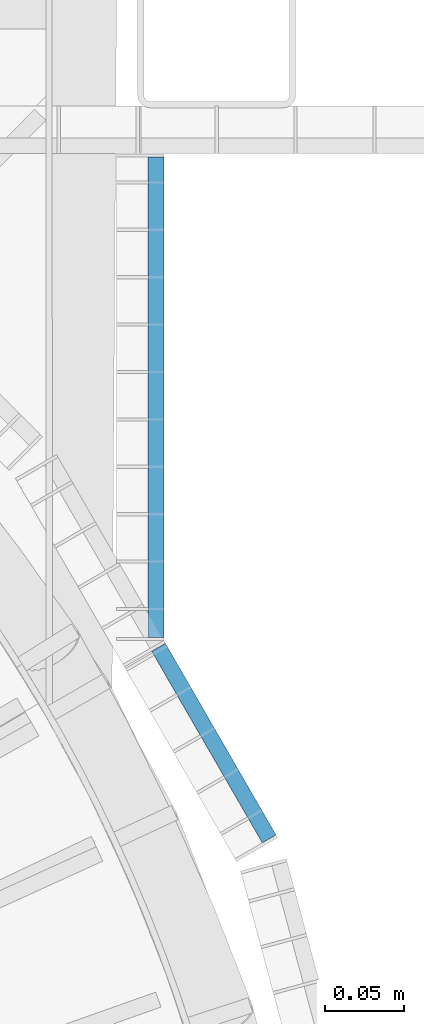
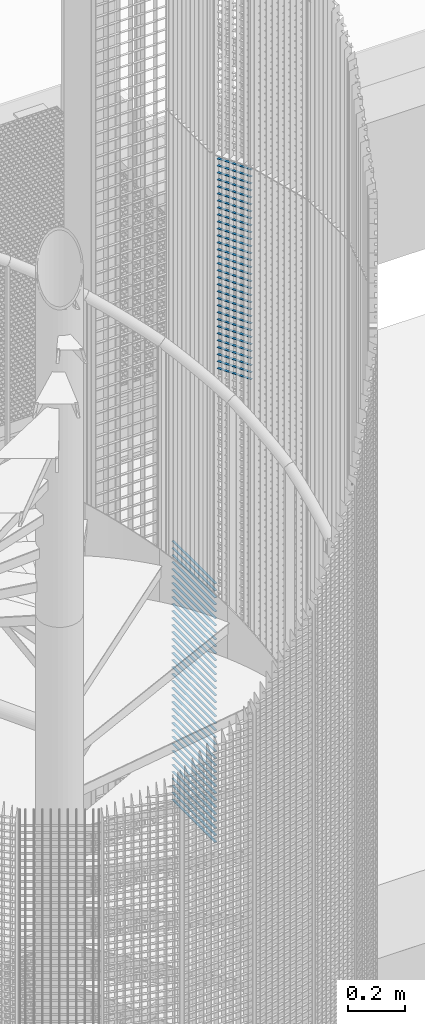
# One storey, part 268 of 1148: 69 beams, 2 elements without a shape of their own.
"""IFC2X3 building model written with IfcOpenShell, lengths in millimetres."""

from ifc_helpers import new_model, si_unit, frame, origin_with_axes, origin_2d_with_axis, place, context, subcontext, project, spatial, rectangle, extrude, material, type_object, element, aggregate, save


model = new_model("IFC2X3")

# Units and contexts
model_context = context("Model", 3, precision=1e-05, world=origin_with_axes())
body_context = subcontext(model_context, "Body", "Model", "MODEL_VIEW")
ifc_project = project(units=[si_unit("LENGTHUNIT", "METRE", prefix="MILLI"), si_unit("AREAUNIT", "SQUARE_METRE"), si_unit("VOLUMEUNIT", "CUBIC_METRE"), si_unit("MASSUNIT", "GRAM", prefix="KILO"), si_unit("TIMEUNIT", "SECOND"), si_unit("PLANEANGLEUNIT", "RADIAN"), si_unit("SOLIDANGLEUNIT", "STERADIAN"), si_unit("THERMODYNAMICTEMPERATUREUNIT", "DEGREE_CELSIUS"), si_unit("LUMINOUSINTENSITYUNIT", "LUMEN")], contexts=[model_context])

# Site, building, storey
site_placement = place(None, origin_with_axes())
site = spatial("IfcSite", under=ifc_project, at=site_placement, Name="Undefined", CompositionType="ELEMENT")
building_placement = place(site_placement, origin_with_axes())
building = spatial("IfcBuilding", under=site, at=building_placement, Name="Undefined", CompositionType="ELEMENT")
storey_placement = place(building_placement, origin_with_axes())
storey = spatial("IfcBuildingStorey", under=building, at=storey_placement, Name="Undefined", CompositionType="ELEMENT", Elevation=0.0)

# Assembly, beams
assembly_1_placement = place(storey_placement, origin_with_axes())
assembly_1 = element("IfcElementAssembly", 1, at=assembly_1_placement, inside=storey, Name="BORDURE", AssemblyPlace="NOTDEFINED", PredefinedType="NOTDEFINED")
ifc_material = material(Name="STEEL/S235JR")
beam_type = type_object("IfcBeamType", Name="PL2*10", PredefinedType="NOTDEFINED")
beam_1_placement = place(assembly_1_placement, frame((961.586915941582, 564.782669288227, 13140.0), z_axis=(1.0, 0.0, 0.0), x_axis=(0.0, 1.0, 0.0)))
beam_1 = element("IfcBeam", 2, at=beam_1_placement, type_object=beam_type, material=ifc_material, Name="ENTRETOISE", context=body_context, shape_type="SweptSolid", body=[
    extrude(rectangle(XDim=2.0, YDim=10.0, at=origin_2d_with_axis()), frame((303.999999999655, 0.0, 0.0), z_axis=(-1.0, 0.0, 0.0), x_axis=(0.0, -1.0, 0.0)), (0.0, 0.0, 1.0), 304.0),
])
beam_2_placement = place(assembly_1_placement, frame((961.586915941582, 564.782669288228, 12720.0), z_axis=(1.0, 0.0, 0.0), x_axis=(0.0, 1.0, 0.0)))
beam_2 = element("IfcBeam", 3, at=beam_2_placement, type_object=beam_type, material=ifc_material, Name="ENTRETOISE", context=body_context, shape_type="SweptSolid", body=[
    extrude(rectangle(XDim=2.0, YDim=10.0, at=origin_2d_with_axis()), frame((303.999999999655, 0.0, 0.0), z_axis=(-1.0, 0.0, 0.0), x_axis=(0.0, -1.0, 0.0)), (0.0, 0.0, 1.0), 304.0),
])
beam_3_placement = place(assembly_1_placement, frame((961.586915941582, 564.782669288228, 12690.0), z_axis=(1.0, 0.0, 0.0), x_axis=(0.0, 1.0, 0.0)))
beam_3 = element("IfcBeam", 4, at=beam_3_placement, type_object=beam_type, material=ifc_material, Name="ENTRETOISE", context=body_context, shape_type="SweptSolid", body=[
    extrude(rectangle(XDim=2.0, YDim=10.0, at=origin_2d_with_axis()), frame((303.999999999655, 0.0, 0.0), z_axis=(-1.0, 0.0, 0.0), x_axis=(0.0, -1.0, 0.0)), (0.0, 0.0, 1.0), 304.0),
])
beam_4_placement = place(assembly_1_placement, frame((961.586915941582, 564.782669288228, 12750.0), z_axis=(1.0, 0.0, 0.0), x_axis=(0.0, 1.0, 0.0)))
beam_4 = element("IfcBeam", 5, at=beam_4_placement, type_object=beam_type, material=ifc_material, Name="ENTRETOISE", context=body_context, shape_type="SweptSolid", body=[
    extrude(rectangle(XDim=2.0, YDim=10.0, at=origin_2d_with_axis()), frame((303.999999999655, 0.0, 0.0), z_axis=(-1.0, 0.0, 0.0), x_axis=(0.0, -1.0, 0.0)), (0.0, 0.0, 1.0), 304.0),
])
beam_5_placement = place(assembly_1_placement, frame((961.586915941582, 564.782669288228, 12660.0), z_axis=(1.0, 0.0, 0.0), x_axis=(0.0, 1.0, 0.0)))
beam_5 = element("IfcBeam", 6, at=beam_5_placement, type_object=beam_type, material=ifc_material, Name="ENTRETOISE", context=body_context, shape_type="SweptSolid", body=[
    extrude(rectangle(XDim=2.0, YDim=10.0, at=origin_2d_with_axis()), frame((303.999999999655, 0.0, 0.0), z_axis=(-1.0, 0.0, 0.0), x_axis=(0.0, -1.0, 0.0)), (0.0, 0.0, 1.0), 304.0),
])
beam_6_placement = place(assembly_1_placement, frame((961.586915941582, 564.782669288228, 12630.0), z_axis=(1.0, 0.0, 0.0), x_axis=(0.0, 1.0, 0.0)))
beam_6 = element("IfcBeam", 7, at=beam_6_placement, type_object=beam_type, material=ifc_material, Name="ENTRETOISE", context=body_context, shape_type="SweptSolid", body=[
    extrude(rectangle(XDim=2.0, YDim=10.0, at=origin_2d_with_axis()), frame((303.999999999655, 0.0, 0.0), z_axis=(-1.0, 0.0, 0.0), x_axis=(0.0, -1.0, 0.0)), (0.0, 0.0, 1.0), 304.0),
])
beam_7_placement = place(assembly_1_placement, frame((961.586915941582, 564.782669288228, 12780.0), z_axis=(1.0, 0.0, 0.0), x_axis=(0.0, 1.0, 0.0)))
beam_7 = element("IfcBeam", 8, at=beam_7_placement, type_object=beam_type, material=ifc_material, Name="ENTRETOISE", context=body_context, shape_type="SweptSolid", body=[
    extrude(rectangle(XDim=2.0, YDim=10.0, at=origin_2d_with_axis()), frame((303.999999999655, 0.0, 0.0), z_axis=(-1.0, 0.0, 0.0), x_axis=(0.0, -1.0, 0.0)), (0.0, 0.0, 1.0), 304.0),
])
beam_8_placement = place(assembly_1_placement, frame((961.586915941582, 564.782669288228, 12600.0), z_axis=(1.0, 0.0, 0.0), x_axis=(0.0, 1.0, 0.0)))
beam_8 = element("IfcBeam", 9, at=beam_8_placement, type_object=beam_type, material=ifc_material, Name="ENTRETOISE", context=body_context, shape_type="SweptSolid", body=[
    extrude(rectangle(XDim=2.0, YDim=10.0, at=origin_2d_with_axis()), frame((303.999999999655, 0.0, 0.0), z_axis=(-1.0, 0.0, 0.0), x_axis=(0.0, -1.0, 0.0)), (0.0, 0.0, 1.0), 304.0),
])
beam_9_placement = place(assembly_1_placement, frame((961.586915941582, 564.782669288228, 12810.0), z_axis=(1.0, 0.0, 0.0), x_axis=(0.0, 1.0, 0.0)))
beam_9 = element("IfcBeam", 10, at=beam_9_placement, type_object=beam_type, material=ifc_material, Name="ENTRETOISE", context=body_context, shape_type="SweptSolid", body=[
    extrude(rectangle(XDim=2.0, YDim=10.0, at=origin_2d_with_axis()), frame((303.999999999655, 0.0, 0.0), z_axis=(-1.0, 0.0, 0.0), x_axis=(0.0, -1.0, 0.0)), (0.0, 0.0, 1.0), 304.0),
])
beam_10_placement = place(assembly_1_placement, frame((961.586915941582, 564.782669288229, 12570.0), z_axis=(1.0, 0.0, 0.0), x_axis=(0.0, 1.0, 0.0)))
beam_10 = element("IfcBeam", 11, at=beam_10_placement, type_object=beam_type, material=ifc_material, Name="ENTRETOISE", context=body_context, shape_type="SweptSolid", body=[
    extrude(rectangle(XDim=2.0, YDim=10.0, at=origin_2d_with_axis()), frame((303.999999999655, 0.0, 0.0), z_axis=(-1.0, 0.0, 0.0), x_axis=(0.0, -1.0, 0.0)), (0.0, 0.0, 1.0), 304.0),
])
beam_11_placement = place(assembly_1_placement, frame((961.586915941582, 564.782669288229, 12540.0), z_axis=(1.0, 0.0, 0.0), x_axis=(0.0, 1.0, 0.0)))
beam_11 = element("IfcBeam", 12, at=beam_11_placement, type_object=beam_type, material=ifc_material, Name="ENTRETOISE", context=body_context, shape_type="SweptSolid", body=[
    extrude(rectangle(XDim=2.0, YDim=10.0, at=origin_2d_with_axis()), frame((303.999999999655, 0.0, 0.0), z_axis=(-1.0, 0.0, 0.0), x_axis=(0.0, -1.0, 0.0)), (0.0, 0.0, 1.0), 304.0),
])
beam_12_placement = place(assembly_1_placement, frame((961.586915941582, 564.782669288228, 12840.0), z_axis=(1.0, 0.0, 0.0), x_axis=(0.0, 1.0, 0.0)))
beam_12 = element("IfcBeam", 13, at=beam_12_placement, type_object=beam_type, material=ifc_material, Name="ENTRETOISE", context=body_context, shape_type="SweptSolid", body=[
    extrude(rectangle(XDim=2.0, YDim=10.0, at=origin_2d_with_axis()), frame((303.999999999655, 0.0, 0.0), z_axis=(-1.0, 0.0, 0.0), x_axis=(0.0, -1.0, 0.0)), (0.0, 0.0, 1.0), 304.0),
])
beam_13_placement = place(assembly_1_placement, frame((961.586915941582, 564.782669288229, 12510.0), z_axis=(1.0, 0.0, 0.0), x_axis=(0.0, 1.0, 0.0)))
beam_13 = element("IfcBeam", 14, at=beam_13_placement, type_object=beam_type, material=ifc_material, Name="ENTRETOISE", context=body_context, shape_type="SweptSolid", body=[
    extrude(rectangle(XDim=2.0, YDim=10.0, at=origin_2d_with_axis()), frame((303.999999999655, 0.0, 0.0), z_axis=(-1.0, 0.0, 0.0), x_axis=(0.0, -1.0, 0.0)), (0.0, 0.0, 1.0), 304.0),
])
beam_14_placement = place(assembly_1_placement, frame((961.586915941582, 564.782669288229, 12480.0), z_axis=(1.0, 0.0, 0.0), x_axis=(0.0, 1.0, 0.0)))
beam_14 = element("IfcBeam", 15, at=beam_14_placement, type_object=beam_type, material=ifc_material, Name="ENTRETOISE", context=body_context, shape_type="SweptSolid", body=[
    extrude(rectangle(XDim=2.0, YDim=10.0, at=origin_2d_with_axis()), frame((303.999999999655, 0.0, 0.0), z_axis=(-1.0, 0.0, 0.0), x_axis=(0.0, -1.0, 0.0)), (0.0, 0.0, 1.0), 304.0),
])
beam_15_placement = place(assembly_1_placement, frame((961.586915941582, 564.782669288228, 12870.0), z_axis=(1.0, 0.0, 0.0), x_axis=(0.0, 1.0, 0.0)))
beam_15 = element("IfcBeam", 16, at=beam_15_placement, type_object=beam_type, material=ifc_material, Name="ENTRETOISE", context=body_context, shape_type="SweptSolid", body=[
    extrude(rectangle(XDim=2.0, YDim=10.0, at=origin_2d_with_axis()), frame((303.999999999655, 0.0, 0.0), z_axis=(-1.0, 0.0, 0.0), x_axis=(0.0, -1.0, 0.0)), (0.0, 0.0, 1.0), 304.0),
])
beam_16_placement = place(assembly_1_placement, frame((961.586915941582, 564.782669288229, 12450.0), z_axis=(1.0, 0.0, 0.0), x_axis=(0.0, 1.0, 0.0)))
beam_16 = element("IfcBeam", 17, at=beam_16_placement, type_object=beam_type, material=ifc_material, Name="ENTRETOISE", context=body_context, shape_type="SweptSolid", body=[
    extrude(rectangle(XDim=2.0, YDim=10.0, at=origin_2d_with_axis()), frame((303.999999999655, 0.0, 0.0), z_axis=(-1.0, 0.0, 0.0), x_axis=(0.0, -1.0, 0.0)), (0.0, 0.0, 1.0), 304.0),
])
beam_17_placement = place(assembly_1_placement, frame((961.586915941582, 564.782669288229, 12420.0), z_axis=(1.0, 0.0, 0.0), x_axis=(0.0, 1.0, 0.0)))
beam_17 = element("IfcBeam", 18, at=beam_17_placement, type_object=beam_type, material=ifc_material, Name="ENTRETOISE", context=body_context, shape_type="SweptSolid", body=[
    extrude(rectangle(XDim=2.0, YDim=10.0, at=origin_2d_with_axis()), frame((303.999999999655, 0.0, 0.0), z_axis=(-1.0, 0.0, 0.0), x_axis=(0.0, -1.0, 0.0)), (0.0, 0.0, 1.0), 304.0),
])
beam_18_placement = place(assembly_1_placement, frame((961.586915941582, 564.782669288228, 12900.0), z_axis=(1.0, 0.0, 0.0), x_axis=(0.0, 1.0, 0.0)))
beam_18 = element("IfcBeam", 19, at=beam_18_placement, type_object=beam_type, material=ifc_material, Name="ENTRETOISE", context=body_context, shape_type="SweptSolid", body=[
    extrude(rectangle(XDim=2.0, YDim=10.0, at=origin_2d_with_axis()), frame((303.999999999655, 0.0, 0.0), z_axis=(-1.0, 0.0, 0.0), x_axis=(0.0, -1.0, 0.0)), (0.0, 0.0, 1.0), 304.0),
])
beam_19_placement = place(assembly_1_placement, frame((961.586915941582, 564.782669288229, 12390.0), z_axis=(1.0, 0.0, 0.0), x_axis=(0.0, 1.0, 0.0)))
beam_19 = element("IfcBeam", 20, at=beam_19_placement, type_object=beam_type, material=ifc_material, Name="ENTRETOISE", context=body_context, shape_type="SweptSolid", body=[
    extrude(rectangle(XDim=2.0, YDim=10.0, at=origin_2d_with_axis()), frame((303.999999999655, 0.0, 0.0), z_axis=(-1.0, 0.0, 0.0), x_axis=(0.0, -1.0, 0.0)), (0.0, 0.0, 1.0), 304.0),
])
beam_20_placement = place(assembly_1_placement, frame((961.586915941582, 564.782669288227, 12930.0), z_axis=(1.0, 0.0, 0.0), x_axis=(0.0, 1.0, 0.0)))
beam_20 = element("IfcBeam", 21, at=beam_20_placement, type_object=beam_type, material=ifc_material, Name="ENTRETOISE", context=body_context, shape_type="SweptSolid", body=[
    extrude(rectangle(XDim=2.0, YDim=10.0, at=origin_2d_with_axis()), frame((303.999999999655, 0.0, 0.0), z_axis=(-1.0, 0.0, 0.0), x_axis=(0.0, -1.0, 0.0)), (0.0, 0.0, 1.0), 304.0),
])
beam_21_placement = place(assembly_1_placement, frame((961.586915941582, 564.782669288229, 12360.0), z_axis=(1.0, 0.0, 0.0), x_axis=(0.0, 1.0, 0.0)))
beam_21 = element("IfcBeam", 22, at=beam_21_placement, type_object=beam_type, material=ifc_material, Name="ENTRETOISE", context=body_context, shape_type="SweptSolid", body=[
    extrude(rectangle(XDim=2.0, YDim=10.0, at=origin_2d_with_axis()), frame((303.999999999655, 0.0, 0.0), z_axis=(-1.0, 0.0, 0.0), x_axis=(0.0, -1.0, 0.0)), (0.0, 0.0, 1.0), 304.0),
])
beam_22_placement = place(assembly_1_placement, frame((961.586915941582, 564.782669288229, 12330.0), z_axis=(1.0, 0.0, 0.0), x_axis=(0.0, 1.0, 0.0)))
beam_22 = element("IfcBeam", 23, at=beam_22_placement, type_object=beam_type, material=ifc_material, Name="ENTRETOISE", context=body_context, shape_type="SweptSolid", body=[
    extrude(rectangle(XDim=2.0, YDim=10.0, at=origin_2d_with_axis()), frame((303.999999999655, 0.0, 0.0), z_axis=(-1.0, 0.0, 0.0), x_axis=(0.0, -1.0, 0.0)), (0.0, 0.0, 1.0), 304.0),
])
beam_23_placement = place(assembly_1_placement, frame((961.586915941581, 564.782669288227, 12960.0), z_axis=(1.0, 0.0, 0.0), x_axis=(0.0, 1.0, 0.0)))
beam_23 = element("IfcBeam", 24, at=beam_23_placement, type_object=beam_type, material=ifc_material, Name="ENTRETOISE", context=body_context, shape_type="SweptSolid", body=[
    extrude(rectangle(XDim=2.0, YDim=10.0, at=origin_2d_with_axis()), frame((303.999999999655, 0.0, 0.0), z_axis=(-1.0, 0.0, 0.0), x_axis=(0.0, -1.0, 0.0)), (0.0, 0.0, 1.0), 304.0),
])
beam_24_placement = place(assembly_1_placement, frame((961.586915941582, 564.782669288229, 12300.0), z_axis=(1.0, 0.0, 0.0), x_axis=(0.0, 1.0, 0.0)))
beam_24 = element("IfcBeam", 25, at=beam_24_placement, type_object=beam_type, material=ifc_material, Name="ENTRETOISE", context=body_context, shape_type="SweptSolid", body=[
    extrude(rectangle(XDim=2.0, YDim=10.0, at=origin_2d_with_axis()), frame((303.999999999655, 0.0, 0.0), z_axis=(-1.0, 0.0, 0.0), x_axis=(0.0, -1.0, 0.0)), (0.0, 0.0, 1.0), 304.0),
])
beam_25_placement = place(assembly_1_placement, frame((961.586915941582, 564.78266928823, 12270.0), z_axis=(1.0, 0.0, 0.0), x_axis=(0.0, 1.0, 0.0)))
beam_25 = element("IfcBeam", 26, at=beam_25_placement, type_object=beam_type, material=ifc_material, Name="ENTRETOISE", context=body_context, shape_type="SweptSolid", body=[
    extrude(rectangle(XDim=2.0, YDim=10.0, at=origin_2d_with_axis()), frame((303.999999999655, 0.0, 0.0), z_axis=(-1.0, 0.0, 0.0), x_axis=(0.0, -1.0, 0.0)), (0.0, 0.0, 1.0), 304.0),
])
beam_26_placement = place(assembly_1_placement, frame((961.586915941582, 564.782669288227, 12990.0), z_axis=(1.0, 0.0, 0.0), x_axis=(0.0, 1.0, 0.0)))
beam_26 = element("IfcBeam", 27, at=beam_26_placement, type_object=beam_type, material=ifc_material, Name="ENTRETOISE", context=body_context, shape_type="SweptSolid", body=[
    extrude(rectangle(XDim=2.0, YDim=10.0, at=origin_2d_with_axis()), frame((303.999999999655, 0.0, 0.0), z_axis=(-1.0, 0.0, 0.0), x_axis=(0.0, -1.0, 0.0)), (0.0, 0.0, 1.0), 304.0),
])
beam_27_placement = place(assembly_1_placement, frame((961.586915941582, 564.78266928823, 12240.0), z_axis=(1.0, 0.0, 0.0), x_axis=(0.0, 1.0, 0.0)))
beam_27 = element("IfcBeam", 28, at=beam_27_placement, type_object=beam_type, material=ifc_material, Name="ENTRETOISE", context=body_context, shape_type="SweptSolid", body=[
    extrude(rectangle(XDim=2.0, YDim=10.0, at=origin_2d_with_axis()), frame((303.999999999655, 0.0, 0.0), z_axis=(-1.0, 0.0, 0.0), x_axis=(0.0, -1.0, 0.0)), (0.0, 0.0, 1.0), 304.0),
])
beam_28_placement = place(assembly_1_placement, frame((961.586915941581, 564.782669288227, 13020.0), z_axis=(1.0, 0.0, 0.0), x_axis=(0.0, 1.0, 0.0)))
beam_28 = element("IfcBeam", 29, at=beam_28_placement, type_object=beam_type, material=ifc_material, Name="ENTRETOISE", context=body_context, shape_type="SweptSolid", body=[
    extrude(rectangle(XDim=2.0, YDim=10.0, at=origin_2d_with_axis()), frame((303.999999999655, 0.0, 0.0), z_axis=(-1.0, 0.0, 0.0), x_axis=(0.0, -1.0, 0.0)), (0.0, 0.0, 1.0), 304.0),
])
beam_29_placement = place(assembly_1_placement, frame((961.586915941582, 564.78266928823, 12210.0), z_axis=(1.0, 0.0, 0.0), x_axis=(0.0, 1.0, 0.0)))
beam_29 = element("IfcBeam", 30, at=beam_29_placement, type_object=beam_type, material=ifc_material, Name="ENTRETOISE", context=body_context, shape_type="SweptSolid", body=[
    extrude(rectangle(XDim=2.0, YDim=10.0, at=origin_2d_with_axis()), frame((303.999999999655, 0.0, 0.0), z_axis=(-1.0, 0.0, 0.0), x_axis=(0.0, -1.0, 0.0)), (0.0, 0.0, 1.0), 304.0),
])
beam_30_placement = place(assembly_1_placement, frame((961.586915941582, 564.78266928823, 12180.0), z_axis=(1.0, 0.0, 0.0), x_axis=(0.0, 1.0, 0.0)))
beam_30 = element("IfcBeam", 31, at=beam_30_placement, type_object=beam_type, material=ifc_material, Name="ENTRETOISE", context=body_context, shape_type="SweptSolid", body=[
    extrude(rectangle(XDim=2.0, YDim=10.0, at=origin_2d_with_axis()), frame((303.999999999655, 0.0, 0.0), z_axis=(-1.0, 0.0, 0.0), x_axis=(0.0, -1.0, 0.0)), (0.0, 0.0, 1.0), 304.0),
])
beam_31_placement = place(assembly_1_placement, frame((961.586915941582, 564.782669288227, 13050.0), z_axis=(1.0, 0.0, 0.0), x_axis=(0.0, 1.0, 0.0)))
beam_31 = element("IfcBeam", 32, at=beam_31_placement, type_object=beam_type, material=ifc_material, Name="ENTRETOISE", context=body_context, shape_type="SweptSolid", body=[
    extrude(rectangle(XDim=2.0, YDim=10.0, at=origin_2d_with_axis()), frame((303.999999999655, 0.0, 0.0), z_axis=(-1.0, 0.0, 0.0), x_axis=(0.0, -1.0, 0.0)), (0.0, 0.0, 1.0), 304.0),
])
beam_32_placement = place(assembly_1_placement, frame((961.586915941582, 564.78266928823, 12150.0), z_axis=(1.0, 0.0, 0.0), x_axis=(0.0, 1.0, 0.0)))
beam_32 = element("IfcBeam", 33, at=beam_32_placement, type_object=beam_type, material=ifc_material, Name="ENTRETOISE", context=body_context, shape_type="SweptSolid", body=[
    extrude(rectangle(XDim=2.0, YDim=10.0, at=origin_2d_with_axis()), frame((303.999999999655, 0.0, 0.0), z_axis=(-1.0, 0.0, 0.0), x_axis=(0.0, -1.0, 0.0)), (0.0, 0.0, 1.0), 304.0),
])
beam_33_placement = place(assembly_1_placement, frame((961.586915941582, 564.78266928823, 12120.0), z_axis=(1.0, 0.0, 0.0), x_axis=(0.0, 1.0, 0.0)))
beam_33 = element("IfcBeam", 34, at=beam_33_placement, type_object=beam_type, material=ifc_material, Name="ENTRETOISE", context=body_context, shape_type="SweptSolid", body=[
    extrude(rectangle(XDim=2.0, YDim=10.0, at=origin_2d_with_axis()), frame((303.999999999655, 0.0, 0.0), z_axis=(-1.0, 0.0, 0.0), x_axis=(0.0, -1.0, 0.0)), (0.0, 0.0, 1.0), 304.0),
])
beam_34_placement = place(assembly_1_placement, frame((961.586915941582, 564.782669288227, 13080.0), z_axis=(1.0, 0.0, 0.0), x_axis=(0.0, 1.0, 0.0)))
beam_34 = element("IfcBeam", 35, at=beam_34_placement, type_object=beam_type, material=ifc_material, Name="ENTRETOISE", context=body_context, shape_type="SweptSolid", body=[
    extrude(rectangle(XDim=2.0, YDim=10.0, at=origin_2d_with_axis()), frame((303.999999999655, 0.0, 0.0), z_axis=(-1.0, 0.0, 0.0), x_axis=(0.0, -1.0, 0.0)), (0.0, 0.0, 1.0), 304.0),
])
beam_35_placement = place(assembly_1_placement, frame((961.586915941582, 564.78266928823, 12090.0), z_axis=(1.0, 0.0, 0.0), x_axis=(0.0, 1.0, 0.0)))
beam_35 = element("IfcBeam", 36, at=beam_35_placement, type_object=beam_type, material=ifc_material, Name="ENTRETOISE", context=body_context, shape_type="SweptSolid", body=[
    extrude(rectangle(XDim=2.0, YDim=10.0, at=origin_2d_with_axis()), frame((303.999999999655, 0.0, 0.0), z_axis=(-1.0, 0.0, 0.0), x_axis=(0.0, -1.0, 0.0)), (0.0, 0.0, 1.0), 304.0),
])
beam_36_placement = place(assembly_1_placement, frame((961.586915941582, 564.78266928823, 12060.0), z_axis=(1.0, 0.0, 0.0), x_axis=(0.0, 1.0, 0.0)))
beam_36 = element("IfcBeam", 37, at=beam_36_placement, type_object=beam_type, material=ifc_material, Name="ENTRETOISE", context=body_context, shape_type="SweptSolid", body=[
    extrude(rectangle(XDim=2.0, YDim=10.0, at=origin_2d_with_axis()), frame((303.999999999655, 0.0, 0.0), z_axis=(-1.0, 0.0, 0.0), x_axis=(0.0, -1.0, 0.0)), (0.0, 0.0, 1.0), 304.0),
])
beam_37_placement = place(assembly_1_placement, frame((961.586915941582, 564.782669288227, 13110.0), z_axis=(1.0, 0.0, 0.0), x_axis=(0.0, 1.0, 0.0)))
beam_37 = element("IfcBeam", 38, at=beam_37_placement, type_object=beam_type, material=ifc_material, Name="ENTRETOISE", context=body_context, shape_type="SweptSolid", body=[
    extrude(rectangle(XDim=2.0, YDim=10.0, at=origin_2d_with_axis()), frame((303.999999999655, 0.0, 0.0), z_axis=(-1.0, 0.0, 0.0), x_axis=(0.0, -1.0, 0.0)), (0.0, 0.0, 1.0), 304.0),
])
beam_38_placement = place(assembly_1_placement, frame((961.586915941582, 564.782669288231, 12030.0), z_axis=(1.0, 0.0, 0.0), x_axis=(0.0, 1.0, 0.0)))
beam_38 = element("IfcBeam", 39, at=beam_38_placement, type_object=beam_type, material=ifc_material, Name="ENTRETOISE", context=body_context, shape_type="SweptSolid", body=[
    extrude(rectangle(XDim=2.0, YDim=10.0, at=origin_2d_with_axis()), frame((303.999999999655, 0.0, 0.0), z_axis=(-1.0, 0.0, 0.0), x_axis=(0.0, -1.0, 0.0)), (0.0, 0.0, 1.0), 304.0),
])
aggregate(assembly_1, [beam_1, beam_2, beam_3, beam_4, beam_5, beam_6, beam_7, beam_8, beam_9, beam_10, beam_11, beam_12, beam_13, beam_14, beam_15, beam_16, beam_17, beam_18, beam_19, beam_20, beam_21, beam_22, beam_23, beam_24, beam_25, beam_26, beam_27, beam_28, beam_29, beam_30, beam_31, beam_32, beam_33, beam_34, beam_35, beam_36, beam_37, beam_38])

assembly_2_placement = place(storey_placement, origin_with_axes())
assembly_2 = element("IfcElementAssembly", 40, at=assembly_2_placement, inside=storey, Name="BORDURE", AssemblyPlace="NOTDEFINED", PredefinedType="NOTDEFINED")
beam_39_placement = place(assembly_2_placement, frame((1033.29994283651, 437.231999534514, 14970.0), z_axis=(0.866030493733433, 0.499991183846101, 0.0), x_axis=(-0.499991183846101, 0.866030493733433, 0.0)))
beam_39 = element("IfcBeam", 41, at=beam_39_placement, type_object=beam_type, material=ifc_material, Name="ENTRETOISE", context=body_context, shape_type="SweptSolid", body=[
    extrude(rectangle(XDim=2.0, YDim=10.0, at=origin_2d_with_axis()), frame((140.102470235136, 0.0, 0.0), z_axis=(-1.0, 0.0, 0.0), x_axis=(0.0, -1.0, 0.0)), (0.0, 0.0, 1.0), 140.1),
])
beam_40_placement = place(assembly_2_placement, frame((1033.29994283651, 437.231999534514, 14940.0), z_axis=(0.866030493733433, 0.499991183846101, 0.0), x_axis=(-0.499991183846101, 0.866030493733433, 0.0)))
beam_40 = element("IfcBeam", 42, at=beam_40_placement, type_object=beam_type, material=ifc_material, Name="ENTRETOISE", context=body_context, shape_type="SweptSolid", body=[
    extrude(rectangle(XDim=2.0, YDim=10.0, at=origin_2d_with_axis()), frame((140.102470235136, 0.0, 0.0), z_axis=(-1.0, 0.0, 0.0), x_axis=(0.0, -1.0, 0.0)), (0.0, 0.0, 1.0), 140.1),
])
beam_41_placement = place(assembly_2_placement, frame((1033.29994283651, 437.231999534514, 14910.0), z_axis=(0.866030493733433, 0.499991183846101, 0.0), x_axis=(-0.499991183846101, 0.866030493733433, 0.0)))
beam_41 = element("IfcBeam", 43, at=beam_41_placement, type_object=beam_type, material=ifc_material, Name="ENTRETOISE", context=body_context, shape_type="SweptSolid", body=[
    extrude(rectangle(XDim=2.0, YDim=10.0, at=origin_2d_with_axis()), frame((140.102470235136, 0.0, 0.0), z_axis=(-1.0, 0.0, 0.0), x_axis=(0.0, -1.0, 0.0)), (0.0, 0.0, 1.0), 140.1),
])
beam_42_placement = place(assembly_2_placement, frame((1033.29994283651, 437.231999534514, 14880.0), z_axis=(0.866030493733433, 0.499991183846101, 0.0), x_axis=(-0.499991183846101, 0.866030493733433, 0.0)))
beam_42 = element("IfcBeam", 44, at=beam_42_placement, type_object=beam_type, material=ifc_material, Name="ENTRETOISE", context=body_context, shape_type="SweptSolid", body=[
    extrude(rectangle(XDim=2.0, YDim=10.0, at=origin_2d_with_axis()), frame((140.102470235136, 0.0, 0.0), z_axis=(-1.0, 0.0, 0.0), x_axis=(0.0, -1.0, 0.0)), (0.0, 0.0, 1.0), 140.1),
])
beam_43_placement = place(assembly_2_placement, frame((1033.29994283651, 437.231999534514, 14850.0), z_axis=(0.866030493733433, 0.499991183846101, 0.0), x_axis=(-0.499991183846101, 0.866030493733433, 0.0)))
beam_43 = element("IfcBeam", 45, at=beam_43_placement, type_object=beam_type, material=ifc_material, Name="ENTRETOISE", context=body_context, shape_type="SweptSolid", body=[
    extrude(rectangle(XDim=2.0, YDim=10.0, at=origin_2d_with_axis()), frame((140.102470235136, 0.0, 0.0), z_axis=(-1.0, 0.0, 0.0), x_axis=(0.0, -1.0, 0.0)), (0.0, 0.0, 1.0), 140.1),
])
beam_44_placement = place(assembly_2_placement, frame((1033.29994283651, 437.231999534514, 14820.0), z_axis=(0.866030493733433, 0.499991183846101, 0.0), x_axis=(-0.499991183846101, 0.866030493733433, 0.0)))
beam_44 = element("IfcBeam", 46, at=beam_44_placement, type_object=beam_type, material=ifc_material, Name="ENTRETOISE", context=body_context, shape_type="SweptSolid", body=[
    extrude(rectangle(XDim=2.0, YDim=10.0, at=origin_2d_with_axis()), frame((140.102470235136, 0.0, 0.0), z_axis=(-1.0, 0.0, 0.0), x_axis=(0.0, -1.0, 0.0)), (0.0, 0.0, 1.0), 140.1),
])
beam_45_placement = place(assembly_2_placement, frame((1033.29994283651, 437.231999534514, 14790.0), z_axis=(0.866030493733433, 0.499991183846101, 0.0), x_axis=(-0.499991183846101, 0.866030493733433, 0.0)))
beam_45 = element("IfcBeam", 47, at=beam_45_placement, type_object=beam_type, material=ifc_material, Name="ENTRETOISE", context=body_context, shape_type="SweptSolid", body=[
    extrude(rectangle(XDim=2.0, YDim=10.0, at=origin_2d_with_axis()), frame((140.102470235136, 0.0, 0.0), z_axis=(-1.0, 0.0, 0.0), x_axis=(0.0, -1.0, 0.0)), (0.0, 0.0, 1.0), 140.1),
])
beam_46_placement = place(assembly_2_placement, frame((1033.29994283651, 437.231999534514, 14760.0), z_axis=(0.866030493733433, 0.499991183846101, 0.0), x_axis=(-0.499991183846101, 0.866030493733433, 0.0)))
beam_46 = element("IfcBeam", 48, at=beam_46_placement, type_object=beam_type, material=ifc_material, Name="ENTRETOISE", context=body_context, shape_type="SweptSolid", body=[
    extrude(rectangle(XDim=2.0, YDim=10.0, at=origin_2d_with_axis()), frame((140.102470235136, 0.0, 0.0), z_axis=(-1.0, 0.0, 0.0), x_axis=(0.0, -1.0, 0.0)), (0.0, 0.0, 1.0), 140.1),
])
beam_47_placement = place(assembly_2_placement, frame((1033.29994283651, 437.231999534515, 14730.0), z_axis=(0.866030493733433, 0.499991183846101, 0.0), x_axis=(-0.499991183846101, 0.866030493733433, 0.0)))
beam_47 = element("IfcBeam", 49, at=beam_47_placement, type_object=beam_type, material=ifc_material, Name="ENTRETOISE", context=body_context, shape_type="SweptSolid", body=[
    extrude(rectangle(XDim=2.0, YDim=10.0, at=origin_2d_with_axis()), frame((140.102470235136, 0.0, 0.0), z_axis=(-1.0, 0.0, 0.0), x_axis=(0.0, -1.0, 0.0)), (0.0, 0.0, 1.0), 140.1),
])
beam_48_placement = place(assembly_2_placement, frame((1033.29994283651, 437.231999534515, 14700.0), z_axis=(0.866030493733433, 0.499991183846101, 0.0), x_axis=(-0.499991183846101, 0.866030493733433, 0.0)))
beam_48 = element("IfcBeam", 50, at=beam_48_placement, type_object=beam_type, material=ifc_material, Name="ENTRETOISE", context=body_context, shape_type="SweptSolid", body=[
    extrude(rectangle(XDim=2.0, YDim=10.0, at=origin_2d_with_axis()), frame((140.102470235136, 0.0, 0.0), z_axis=(-1.0, 0.0, 0.0), x_axis=(0.0, -1.0, 0.0)), (0.0, 0.0, 1.0), 140.1),
])
beam_49_placement = place(assembly_2_placement, frame((1033.29994283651, 437.231999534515, 14670.0), z_axis=(0.866030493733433, 0.499991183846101, 0.0), x_axis=(-0.499991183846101, 0.866030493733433, 0.0)))
beam_49 = element("IfcBeam", 51, at=beam_49_placement, type_object=beam_type, material=ifc_material, Name="ENTRETOISE", context=body_context, shape_type="SweptSolid", body=[
    extrude(rectangle(XDim=2.0, YDim=10.0, at=origin_2d_with_axis()), frame((140.102470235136, 0.0, 0.0), z_axis=(-1.0, 0.0, 0.0), x_axis=(0.0, -1.0, 0.0)), (0.0, 0.0, 1.0), 140.1),
])
beam_50_placement = place(assembly_2_placement, frame((1033.29994283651, 437.231999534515, 14640.0), z_axis=(0.866030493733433, 0.499991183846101, 0.0), x_axis=(-0.499991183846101, 0.866030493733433, 0.0)))
beam_50 = element("IfcBeam", 52, at=beam_50_placement, type_object=beam_type, material=ifc_material, Name="ENTRETOISE", context=body_context, shape_type="SweptSolid", body=[
    extrude(rectangle(XDim=2.0, YDim=10.0, at=origin_2d_with_axis()), frame((140.102470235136, 0.0, 0.0), z_axis=(-1.0, 0.0, 0.0), x_axis=(0.0, -1.0, 0.0)), (0.0, 0.0, 1.0), 140.1),
])
beam_51_placement = place(assembly_2_placement, frame((1033.29994283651, 437.231999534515, 14610.0), z_axis=(0.866030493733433, 0.499991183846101, 0.0), x_axis=(-0.499991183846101, 0.866030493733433, 0.0)))
beam_51 = element("IfcBeam", 53, at=beam_51_placement, type_object=beam_type, material=ifc_material, Name="ENTRETOISE", context=body_context, shape_type="SweptSolid", body=[
    extrude(rectangle(XDim=2.0, YDim=10.0, at=origin_2d_with_axis()), frame((140.102470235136, 0.0, 0.0), z_axis=(-1.0, 0.0, 0.0), x_axis=(0.0, -1.0, 0.0)), (0.0, 0.0, 1.0), 140.1),
])
beam_52_placement = place(assembly_2_placement, frame((1033.29994283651, 437.231999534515, 14580.0), z_axis=(0.866030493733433, 0.499991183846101, 0.0), x_axis=(-0.499991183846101, 0.866030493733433, 0.0)))
beam_52 = element("IfcBeam", 54, at=beam_52_placement, type_object=beam_type, material=ifc_material, Name="ENTRETOISE", context=body_context, shape_type="SweptSolid", body=[
    extrude(rectangle(XDim=2.0, YDim=10.0, at=origin_2d_with_axis()), frame((140.102470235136, 0.0, 0.0), z_axis=(-1.0, 0.0, 0.0), x_axis=(0.0, -1.0, 0.0)), (0.0, 0.0, 1.0), 140.1),
])
beam_53_placement = place(assembly_2_placement, frame((1033.29994283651, 437.231999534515, 14550.0), z_axis=(0.866030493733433, 0.499991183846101, 0.0), x_axis=(-0.499991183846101, 0.866030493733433, 0.0)))
beam_53 = element("IfcBeam", 55, at=beam_53_placement, type_object=beam_type, material=ifc_material, Name="ENTRETOISE", context=body_context, shape_type="SweptSolid", body=[
    extrude(rectangle(XDim=2.0, YDim=10.0, at=origin_2d_with_axis()), frame((140.102470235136, 0.0, 0.0), z_axis=(-1.0, 0.0, 0.0), x_axis=(0.0, -1.0, 0.0)), (0.0, 0.0, 1.0), 140.1),
])
beam_54_placement = place(assembly_2_placement, frame((1033.29994283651, 437.231999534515, 14520.0), z_axis=(0.866030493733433, 0.499991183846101, 0.0), x_axis=(-0.499991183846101, 0.866030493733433, 0.0)))
beam_54 = element("IfcBeam", 56, at=beam_54_placement, type_object=beam_type, material=ifc_material, Name="ENTRETOISE", context=body_context, shape_type="SweptSolid", body=[
    extrude(rectangle(XDim=2.0, YDim=10.0, at=origin_2d_with_axis()), frame((140.102470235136, 0.0, 0.0), z_axis=(-1.0, 0.0, 0.0), x_axis=(0.0, -1.0, 0.0)), (0.0, 0.0, 1.0), 140.1),
])
beam_55_placement = place(assembly_2_placement, frame((1033.29994283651, 437.231999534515, 14490.0), z_axis=(0.866030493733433, 0.499991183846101, 0.0), x_axis=(-0.499991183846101, 0.866030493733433, 0.0)))
beam_55 = element("IfcBeam", 57, at=beam_55_placement, type_object=beam_type, material=ifc_material, Name="ENTRETOISE", context=body_context, shape_type="SweptSolid", body=[
    extrude(rectangle(XDim=2.0, YDim=10.0, at=origin_2d_with_axis()), frame((140.102470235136, 0.0, 0.0), z_axis=(-1.0, 0.0, 0.0), x_axis=(0.0, -1.0, 0.0)), (0.0, 0.0, 1.0), 140.1),
])
beam_56_placement = place(assembly_2_placement, frame((1033.29994283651, 437.231999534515, 14460.0), z_axis=(0.866030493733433, 0.499991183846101, 0.0), x_axis=(-0.499991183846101, 0.866030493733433, 0.0)))
beam_56 = element("IfcBeam", 58, at=beam_56_placement, type_object=beam_type, material=ifc_material, Name="ENTRETOISE", context=body_context, shape_type="SweptSolid", body=[
    extrude(rectangle(XDim=2.0, YDim=10.0, at=origin_2d_with_axis()), frame((140.102470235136, 0.0, 0.0), z_axis=(-1.0, 0.0, 0.0), x_axis=(0.0, -1.0, 0.0)), (0.0, 0.0, 1.0), 140.1),
])
beam_57_placement = place(assembly_2_placement, frame((1033.29994283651, 437.231999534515, 14430.0), z_axis=(0.866030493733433, 0.499991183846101, 0.0), x_axis=(-0.499991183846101, 0.866030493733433, 0.0)))
beam_57 = element("IfcBeam", 59, at=beam_57_placement, type_object=beam_type, material=ifc_material, Name="ENTRETOISE", context=body_context, shape_type="SweptSolid", body=[
    extrude(rectangle(XDim=2.0, YDim=10.0, at=origin_2d_with_axis()), frame((140.102470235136, 0.0, 0.0), z_axis=(-1.0, 0.0, 0.0), x_axis=(0.0, -1.0, 0.0)), (0.0, 0.0, 1.0), 140.1),
])
beam_58_placement = place(assembly_2_placement, frame((1033.29994283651, 437.231999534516, 14400.0), z_axis=(0.866030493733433, 0.499991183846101, 0.0), x_axis=(-0.499991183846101, 0.866030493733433, 0.0)))
beam_58 = element("IfcBeam", 60, at=beam_58_placement, type_object=beam_type, material=ifc_material, Name="ENTRETOISE", context=body_context, shape_type="SweptSolid", body=[
    extrude(rectangle(XDim=2.0, YDim=10.0, at=origin_2d_with_axis()), frame((140.102470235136, 0.0, 0.0), z_axis=(-1.0, 0.0, 0.0), x_axis=(0.0, -1.0, 0.0)), (0.0, 0.0, 1.0), 140.1),
])
beam_59_placement = place(assembly_2_placement, frame((1033.29994283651, 437.231999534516, 14370.0), z_axis=(0.866030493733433, 0.499991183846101, 0.0), x_axis=(-0.499991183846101, 0.866030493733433, 0.0)))
beam_59 = element("IfcBeam", 61, at=beam_59_placement, type_object=beam_type, material=ifc_material, Name="ENTRETOISE", context=body_context, shape_type="SweptSolid", body=[
    extrude(rectangle(XDim=2.0, YDim=10.0, at=origin_2d_with_axis()), frame((140.102470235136, 0.0, 0.0), z_axis=(-1.0, 0.0, 0.0), x_axis=(0.0, -1.0, 0.0)), (0.0, 0.0, 1.0), 140.1),
])
beam_60_placement = place(assembly_2_placement, frame((1033.29994283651, 437.231999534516, 14340.0), z_axis=(0.866030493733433, 0.499991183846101, 0.0), x_axis=(-0.499991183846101, 0.866030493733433, 0.0)))
beam_60 = element("IfcBeam", 62, at=beam_60_placement, type_object=beam_type, material=ifc_material, Name="ENTRETOISE", context=body_context, shape_type="SweptSolid", body=[
    extrude(rectangle(XDim=2.0, YDim=10.0, at=origin_2d_with_axis()), frame((140.102470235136, 0.0, 0.0), z_axis=(-1.0, 0.0, 0.0), x_axis=(0.0, -1.0, 0.0)), (0.0, 0.0, 1.0), 140.1),
])
beam_61_placement = place(assembly_2_placement, frame((1033.29994283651, 437.231999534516, 14310.0), z_axis=(0.866030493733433, 0.499991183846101, 0.0), x_axis=(-0.499991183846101, 0.866030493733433, 0.0)))
beam_61 = element("IfcBeam", 63, at=beam_61_placement, type_object=beam_type, material=ifc_material, Name="ENTRETOISE", context=body_context, shape_type="SweptSolid", body=[
    extrude(rectangle(XDim=2.0, YDim=10.0, at=origin_2d_with_axis()), frame((140.102470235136, 0.0, 0.0), z_axis=(-1.0, 0.0, 0.0), x_axis=(0.0, -1.0, 0.0)), (0.0, 0.0, 1.0), 140.1),
])
beam_62_placement = place(assembly_2_placement, frame((1033.29994283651, 437.231999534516, 14280.0), z_axis=(0.866030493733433, 0.499991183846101, 0.0), x_axis=(-0.499991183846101, 0.866030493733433, 0.0)))
beam_62 = element("IfcBeam", 64, at=beam_62_placement, type_object=beam_type, material=ifc_material, Name="ENTRETOISE", context=body_context, shape_type="SweptSolid", body=[
    extrude(rectangle(XDim=2.0, YDim=10.0, at=origin_2d_with_axis()), frame((140.102470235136, 0.0, 0.0), z_axis=(-1.0, 0.0, 0.0), x_axis=(0.0, -1.0, 0.0)), (0.0, 0.0, 1.0), 140.1),
])
beam_63_placement = place(assembly_2_placement, frame((1033.29994283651, 437.231999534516, 14250.0), z_axis=(0.866030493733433, 0.499991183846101, 0.0), x_axis=(-0.499991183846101, 0.866030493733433, 0.0)))
beam_63 = element("IfcBeam", 65, at=beam_63_placement, type_object=beam_type, material=ifc_material, Name="ENTRETOISE", context=body_context, shape_type="SweptSolid", body=[
    extrude(rectangle(XDim=2.0, YDim=10.0, at=origin_2d_with_axis()), frame((140.102470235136, 0.0, 0.0), z_axis=(-1.0, 0.0, 0.0), x_axis=(0.0, -1.0, 0.0)), (0.0, 0.0, 1.0), 140.1),
])
beam_64_placement = place(assembly_2_placement, frame((1033.29994283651, 437.231999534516, 14220.0), z_axis=(0.866030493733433, 0.499991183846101, 0.0), x_axis=(-0.499991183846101, 0.866030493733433, 0.0)))
beam_64 = element("IfcBeam", 66, at=beam_64_placement, type_object=beam_type, material=ifc_material, Name="ENTRETOISE", context=body_context, shape_type="SweptSolid", body=[
    extrude(rectangle(XDim=2.0, YDim=10.0, at=origin_2d_with_axis()), frame((140.102470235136, 0.0, 0.0), z_axis=(-1.0, 0.0, 0.0), x_axis=(0.0, -1.0, 0.0)), (0.0, 0.0, 1.0), 140.1),
])
beam_65_placement = place(assembly_2_placement, frame((1033.29994283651, 437.231999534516, 14190.0), z_axis=(0.866030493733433, 0.499991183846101, 0.0), x_axis=(-0.499991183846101, 0.866030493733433, 0.0)))
beam_65 = element("IfcBeam", 67, at=beam_65_placement, type_object=beam_type, material=ifc_material, Name="ENTRETOISE", context=body_context, shape_type="SweptSolid", body=[
    extrude(rectangle(XDim=2.0, YDim=10.0, at=origin_2d_with_axis()), frame((140.102470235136, 0.0, 0.0), z_axis=(-1.0, 0.0, 0.0), x_axis=(0.0, -1.0, 0.0)), (0.0, 0.0, 1.0), 140.1),
])
beam_66_placement = place(assembly_2_placement, frame((1033.29994283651, 437.231999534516, 14160.0), z_axis=(0.866030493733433, 0.499991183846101, 0.0), x_axis=(-0.499991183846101, 0.866030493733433, 0.0)))
beam_66 = element("IfcBeam", 68, at=beam_66_placement, type_object=beam_type, material=ifc_material, Name="ENTRETOISE", context=body_context, shape_type="SweptSolid", body=[
    extrude(rectangle(XDim=2.0, YDim=10.0, at=origin_2d_with_axis()), frame((140.102470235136, 0.0, 0.0), z_axis=(-1.0, 0.0, 0.0), x_axis=(0.0, -1.0, 0.0)), (0.0, 0.0, 1.0), 140.1),
])
beam_67_placement = place(assembly_2_placement, frame((1033.29994283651, 437.231999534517, 14130.0), z_axis=(0.866030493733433, 0.499991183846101, 0.0), x_axis=(-0.499991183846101, 0.866030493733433, 0.0)))
beam_67 = element("IfcBeam", 69, at=beam_67_placement, type_object=beam_type, material=ifc_material, Name="ENTRETOISE", context=body_context, shape_type="SweptSolid", body=[
    extrude(rectangle(XDim=2.0, YDim=10.0, at=origin_2d_with_axis()), frame((140.102470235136, 0.0, 0.0), z_axis=(-1.0, 0.0, 0.0), x_axis=(0.0, -1.0, 0.0)), (0.0, 0.0, 1.0), 140.1),
])
beam_68_placement = place(assembly_2_placement, frame((1033.29994283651, 437.231999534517, 14100.0), z_axis=(0.866030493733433, 0.499991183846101, 0.0), x_axis=(-0.499991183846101, 0.866030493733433, 0.0)))
beam_68 = element("IfcBeam", 70, at=beam_68_placement, type_object=beam_type, material=ifc_material, Name="ENTRETOISE", context=body_context, shape_type="SweptSolid", body=[
    extrude(rectangle(XDim=2.0, YDim=10.0, at=origin_2d_with_axis()), frame((140.102470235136, 0.0, 0.0), z_axis=(-1.0, 0.0, 0.0), x_axis=(0.0, -1.0, 0.0)), (0.0, 0.0, 1.0), 140.1),
])
beam_69_placement = place(assembly_2_placement, frame((1033.29994283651, 437.231999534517, 14070.0), z_axis=(0.866030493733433, 0.499991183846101, 0.0), x_axis=(-0.499991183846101, 0.866030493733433, 0.0)))
beam_69 = element("IfcBeam", 71, at=beam_69_placement, type_object=beam_type, material=ifc_material, Name="ENTRETOISE", context=body_context, shape_type="SweptSolid", body=[
    extrude(rectangle(XDim=2.0, YDim=10.0, at=origin_2d_with_axis()), frame((140.102470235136, 0.0, 0.0), z_axis=(-1.0, 0.0, 0.0), x_axis=(0.0, -1.0, 0.0)), (0.0, 0.0, 1.0), 140.1),
])
aggregate(assembly_2, [beam_39, beam_40, beam_41, beam_42, beam_43, beam_44, beam_45, beam_46, beam_47, beam_48, beam_49, beam_50, beam_51, beam_52, beam_53, beam_54, beam_55, beam_56, beam_57, beam_58, beam_59, beam_60, beam_61, beam_62, beam_63, beam_64, beam_65, beam_66, beam_67, beam_68, beam_69])

save(model, "model.ifc")
